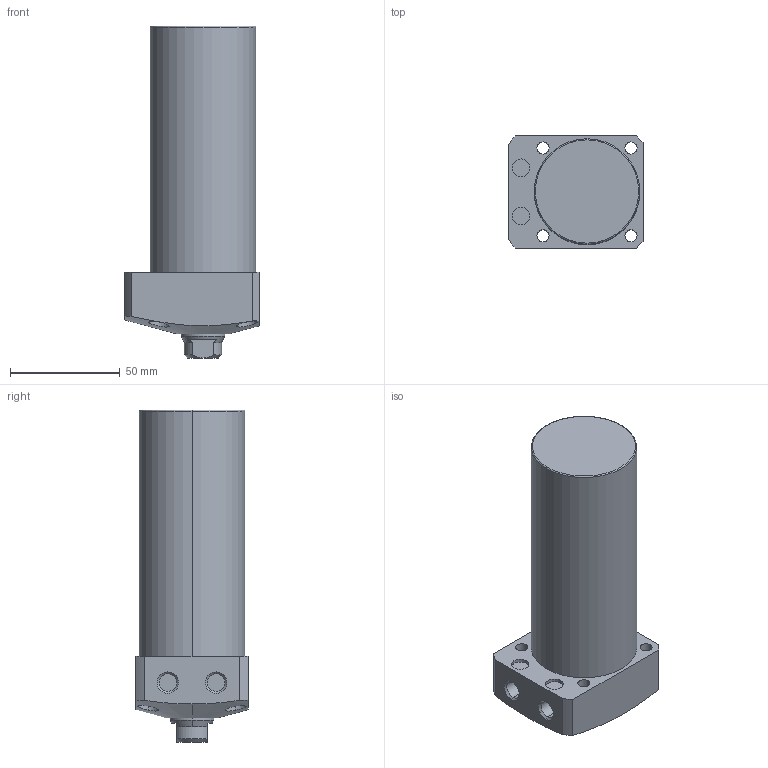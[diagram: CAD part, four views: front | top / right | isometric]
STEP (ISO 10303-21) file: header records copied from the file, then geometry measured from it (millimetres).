
FILE_DESCRIPTION (( 'STEP AP203' ), '1' );
FILE_NAME ('CLL048-CA-085.STEP', '2017-05-17T10:45:45', ( '' ), ( '' ), 'SwSTEP 2.0', 'SolidWorks 2015', '' );
FILE_SCHEMA (( 'CONFIG_CONTROL_DESIGN' ));
Length unit declared in the file: millimetre
Products named in the file (1): CLL048-CA-085
Bounding box: 61 x 51 x 151 mm (x, y, z)
Volume: 276870.8 mm3; surface area: 31665.6 mm2
Topology: 1 solids, 1 shells, 74 faces, 170 edges, 107 vertices
Faces by surface type: cylinder 35, plane 22, cone 15, torus 2
Entity records: 2535 total; most frequent: CARTESIAN_POINT 748, DIRECTION 374, ORIENTED_EDGE 336, EDGE_CURVE 168, AXIS2_PLACEMENT_3D 155, VERTEX_POINT 107, EDGE_LOOP 93, CIRCLE 80
